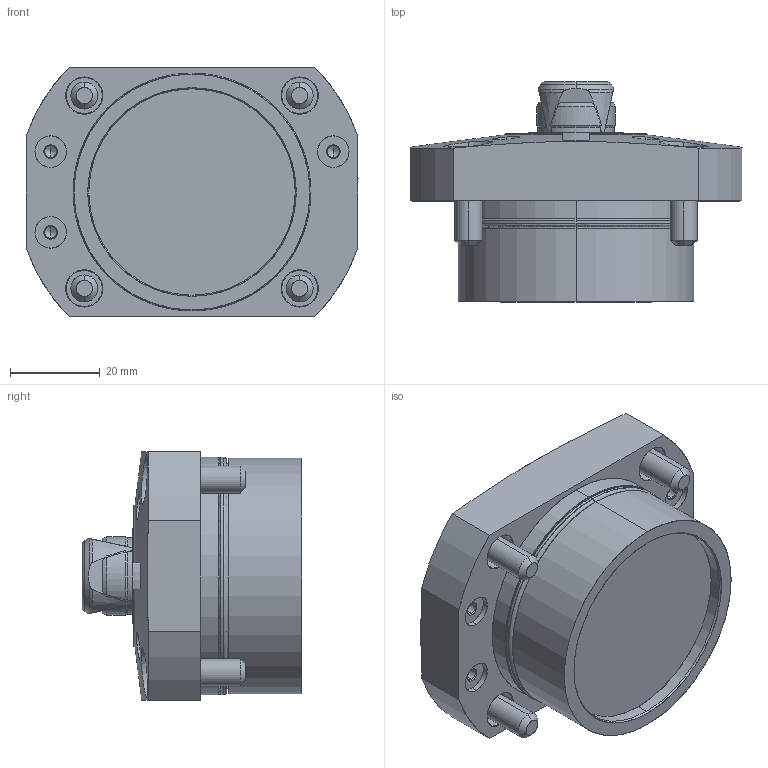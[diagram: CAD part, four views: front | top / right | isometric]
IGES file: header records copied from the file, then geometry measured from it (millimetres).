
Start section: SolidWorks IGES file using analytic representation for surfaces
Global section: file name: L:\電子カタログ-3Ｄ\SFH\ｱｾﾝﾌﾞﾘ\SFH3180.IGS; native system: SolidWorks 2010; preprocessor: SolidWorks 2010; author: D214; date: 101104.083917; units: millimetre
Bounding box: 74 x 49 x 55.5 mm (x, y, z)
Surface area: 30589 mm2 (no closed solid volume)
Topology: 0 solids, 0 shells, 558 faces, 7073 edges, 7045 vertices
Faces by surface type: revolution 314, bspline 244
